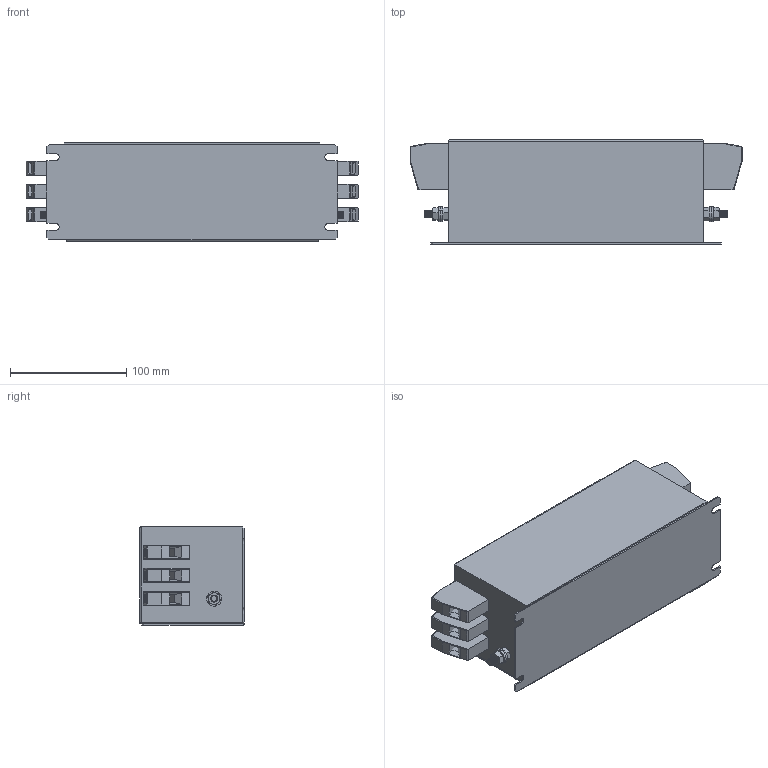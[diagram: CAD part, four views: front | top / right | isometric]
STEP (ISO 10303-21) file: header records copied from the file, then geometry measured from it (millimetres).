
FILE_DESCRIPTION (( 'STEP AP203' ), '1' );
FILE_NAME ('NF-K-55.STEP', '2013-10-23T10:34:38', ( 'Owner' ), ( 'EPA GmbH' ), 'SwSTEP 2.0', 'SolidWorks 2007', '' );
FILE_SCHEMA (( 'CONFIG_CONTROL_DESIGN' ));
Length unit declared in the file: millimetre
Products named in the file (7): NK-K-55; HDFK-16; NF-K-55; M6x16 Earth post; Hex Screw_AM_B18.6.7M - M6 x 1.0 x 16 Plain HHMS --16S; Flat Washer Narrow_AM_B18.22M - Plain washer, 6 mm, narrow; Hex Nut Style 1_AM_B18.2.4.1M - Hex nut, Style 1,  M6 x 1 --D-N
Assembly tree (13 placements, depth 3):
  NF-K-55
    HDFK-16  x6
    M6x16 Earth post  x2
      Hex Nut Style 1_AM_B18.2.4.1M - Hex nut, Style 1,  M6 x 1 --D-N
      Flat Washer Narrow_AM_B18.22M - Plain washer, 6 mm, narrow
      Hex Screw_AM_B18.6.7M - M6 x 1.0 x 16 Plain HHMS --16S
    NK-K-55
Bounding box: 286.01 x 90 x 85 mm (x, y, z)
Volume: 1724605.3 mm3; surface area: 162214.4 mm2
Topology: 15 solids, 15 shells, 801 faces, 1887 edges, 1152 vertices
Faces by surface type: plane 462, cone 192, cylinder 145, sphere 2
Entity records: 9516 total; most frequent: CARTESIAN_POINT 1658, DIRECTION 1515, ORIENTED_EDGE 1414, EDGE_CURVE 707, AXIS2_PLACEMENT_3D 551, VERTEX_POINT 438, VECTOR 413, LINE 413
